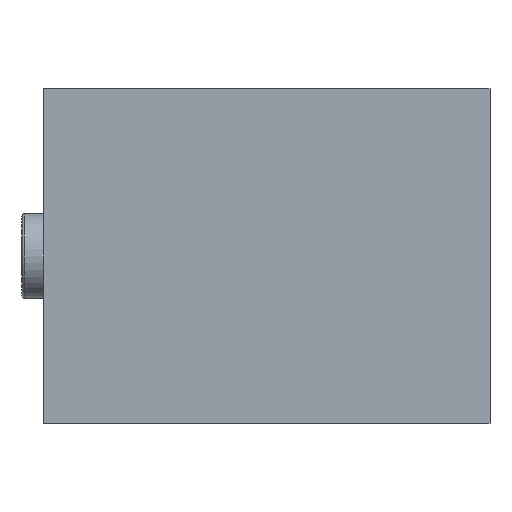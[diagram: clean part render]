
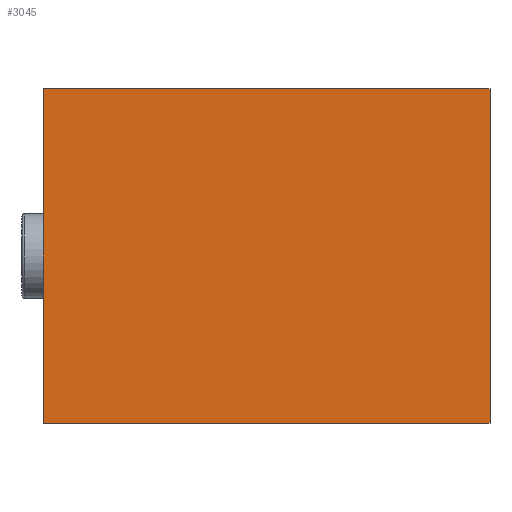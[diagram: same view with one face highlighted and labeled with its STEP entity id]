
A CAD part, front view. The second image highlights one B-rep face of the part: STEP entity #3045.
In plain terms, the highlighted planar face has unit normal (0, -1, 0).
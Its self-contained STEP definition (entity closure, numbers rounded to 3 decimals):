
#69 = ORIENTED_EDGE ( 'NONE', *, *, #1044, .F. ) ;
#240 = ORIENTED_EDGE ( 'NONE', *, *, #1624, .F. ) ;
#361 = VERTEX_POINT ( 'NONE', #2727 ) ;
#667 = DIRECTION ( 'NONE',  ( 0., 0., 1. ) ) ;
#760 = VERTEX_POINT ( 'NONE', #1916 ) ;
#769 = EDGE_CURVE ( 'NONE', #760, #361, #783, .T. ) ;
#783 = LINE ( 'NONE', #2193, #1607 ) ;
#898 = CARTESIAN_POINT ( 'NONE',  ( 0., 0., 0. ) ) ;
#982 = CARTESIAN_POINT ( 'NONE',  ( 50., 0., 37.5 ) ) ;
#1044 = EDGE_CURVE ( 'NONE', #1381, #2382, #1837, .T. ) ;
#1126 = LINE ( 'NONE', #2276, #2962 ) ;
#1185 = ORIENTED_EDGE ( 'NONE', *, *, #2588, .F. ) ;
#1191 = DIRECTION ( 'NONE',  ( 0., 0., 1. ) ) ;
#1233 = LINE ( 'NONE', #2630, #2280 ) ;
#1381 = VERTEX_POINT ( 'NONE', #2535 ) ;
#1607 = VECTOR ( 'NONE', #2412, 1000. ) ;
#1624 = EDGE_CURVE ( 'NONE', #361, #1381, #1233, .T. ) ;
#1681 = DIRECTION ( 'NONE',  ( 0., 1., 0. ) ) ;
#1837 = LINE ( 'NONE', #2696, #3042 ) ;
#1916 = CARTESIAN_POINT ( 'NONE',  ( 50., 0., -37.5 ) ) ;
#2157 = EDGE_LOOP ( 'NONE', ( #1185, #69, #240, #2606 ) ) ;
#2193 = CARTESIAN_POINT ( 'NONE',  ( -50., 0., -37.5 ) ) ;
#2276 = CARTESIAN_POINT ( 'NONE',  ( 50., 0., -37.5 ) ) ;
#2280 = VECTOR ( 'NONE', #1191, 1000. ) ;
#2362 = AXIS2_PLACEMENT_3D ( 'NONE', #898, #1681, #667 ) ;
#2382 = VERTEX_POINT ( 'NONE', #982 ) ;
#2412 = DIRECTION ( 'NONE',  ( -1., 0., 0. ) ) ;
#2535 = CARTESIAN_POINT ( 'NONE',  ( -50., 0., 37.5 ) ) ;
#2588 = EDGE_CURVE ( 'NONE', #2382, #760, #1126, .T. ) ;
#2606 = ORIENTED_EDGE ( 'NONE', *, *, #769, .F. ) ;
#2630 = CARTESIAN_POINT ( 'NONE',  ( -50., 0., -37.5 ) ) ;
#2696 = CARTESIAN_POINT ( 'NONE',  ( -50., 0., 37.5 ) ) ;
#2727 = CARTESIAN_POINT ( 'NONE',  ( -50., 0., -37.5 ) ) ;
#2869 = PLANE ( 'NONE',  #2362 ) ;
#2962 = VECTOR ( 'NONE', #3038, 1000. ) ;
#2980 = DIRECTION ( 'NONE',  ( 1., 0., 0. ) ) ;
#3038 = DIRECTION ( 'NONE',  ( 0., 0., -1. ) ) ;
#3042 = VECTOR ( 'NONE', #2980, 1000. ) ;
#3045 = ADVANCED_FACE ( 'NONE', ( #3149 ), #2869, .F. ) ;
#3149 = FACE_OUTER_BOUND ( 'NONE', #2157, .T. ) ;
